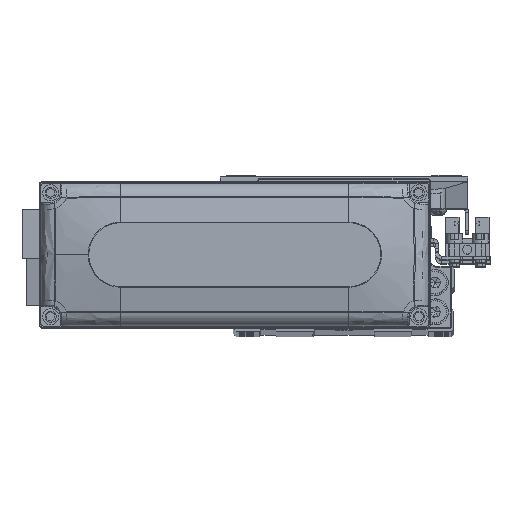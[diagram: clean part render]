
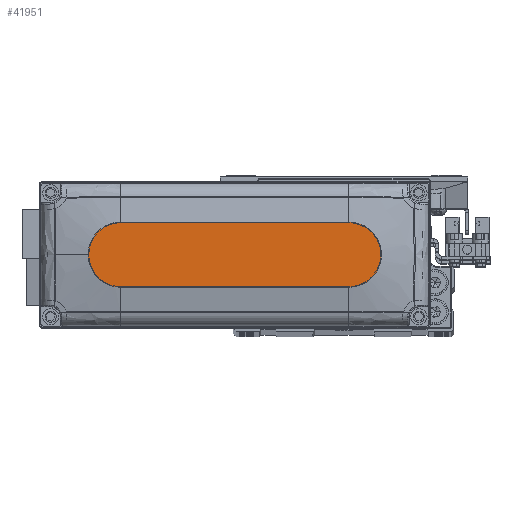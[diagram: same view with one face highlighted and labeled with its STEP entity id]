
A CAD part, top view. The second image highlights one B-rep face of the part: STEP entity #41951.
In plain terms, the highlighted planar face has unit normal (0, 0, 1).
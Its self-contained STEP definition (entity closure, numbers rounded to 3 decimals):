
#875 = CARTESIAN_POINT ( 'NONE',  ( 45., 0., 28. ) ) ;
#2263 = ORIENTED_EDGE ( 'NONE', *, *, #11037, .T. ) ;
#3210 = VERTEX_POINT ( 'NONE', #30338 ) ;
#5040 = LINE ( 'NONE', #19557, #14381 ) ;
#6296 = CIRCLE ( 'NONE', #12375, 10. ) ;
#7540 = EDGE_CURVE ( 'NONE', #34927, #35789, #6296, .T. ) ;
#7816 = EDGE_CURVE ( 'NONE', #3210, #41523, #39797, .T. ) ;
#10111 = DIRECTION ( 'NONE',  ( 1., 0., 0. ) ) ;
#10828 = CARTESIAN_POINT ( 'NONE',  ( 35., 0., 28. ) ) ;
#11037 = EDGE_CURVE ( 'NONE', #35789, #3210, #5040, .T. ) ;
#11823 = EDGE_CURVE ( 'NONE', #41523, #40615, #15804, .T. ) ;
#12375 = AXIS2_PLACEMENT_3D ( 'NONE', #28241, #42748, #10111 ) ;
#12650 = CARTESIAN_POINT ( 'NONE',  ( 0., 0., 28. ) ) ;
#14381 = VECTOR ( 'NONE', #34093, 1000. ) ;
#14615 = AXIS2_PLACEMENT_3D ( 'NONE', #10828, #25377, #39899 ) ;
#15161 = ORIENTED_EDGE ( 'NONE', *, *, #11823, .T. ) ;
#15804 = LINE ( 'NONE', #30356, #34087 ) ;
#19557 = CARTESIAN_POINT ( 'NONE',  ( -35., 10., 28. ) ) ;
#19811 = FACE_OUTER_BOUND ( 'NONE', #34566, .T. ) ;
#19864 = DIRECTION ( 'NONE',  ( 0., 0., 1. ) ) ;
#23176 = AXIS2_PLACEMENT_3D ( 'NONE', #12650, #27200, #41723 ) ;
#25377 = DIRECTION ( 'NONE',  ( 0., 0., 1. ) ) ;
#27200 = DIRECTION ( 'NONE',  ( 0., 0., 1. ) ) ;
#28241 = CARTESIAN_POINT ( 'NONE',  ( 35., 0., 28. ) ) ;
#30338 = CARTESIAN_POINT ( 'NONE',  ( -35., 10., 28. ) ) ;
#30356 = CARTESIAN_POINT ( 'NONE',  ( -35., -10., 28. ) ) ;
#31244 = CARTESIAN_POINT ( 'NONE',  ( 35., -10., 28. ) ) ;
#32823 = ORIENTED_EDGE ( 'NONE', *, *, #7540, .T. ) ;
#34087 = VECTOR ( 'NONE', #44853, 1000. ) ;
#34093 = DIRECTION ( 'NONE',  ( -1., 0., 0. ) ) ;
#34395 = DIRECTION ( 'NONE',  ( 1., 0., 0. ) ) ;
#34566 = EDGE_LOOP ( 'NONE', ( #2263, #36231, #15161, #36026, #32823 ) ) ;
#34927 = VERTEX_POINT ( 'NONE', #875 ) ;
#35168 = CIRCLE ( 'NONE', #14615, 10. ) ;
#35789 = VERTEX_POINT ( 'NONE', #44245 ) ;
#36026 = ORIENTED_EDGE ( 'NONE', *, *, #38183, .T. ) ;
#36231 = ORIENTED_EDGE ( 'NONE', *, *, #7816, .T. ) ;
#38183 = EDGE_CURVE ( 'NONE', #40615, #34927, #35168, .T. ) ;
#39797 = CIRCLE ( 'NONE', #45860, 10. ) ;
#39899 = DIRECTION ( 'NONE',  ( 1., 0., 0. ) ) ;
#40615 = VERTEX_POINT ( 'NONE', #31244 ) ;
#41523 = VERTEX_POINT ( 'NONE', #42461 ) ;
#41537 = CARTESIAN_POINT ( 'NONE',  ( -35., 0., 28. ) ) ;
#41723 = DIRECTION ( 'NONE',  ( 1., 0., 0. ) ) ;
#41951 = ADVANCED_FACE ( 'NONE', ( #19811 ), #45278, .T. ) ;
#42461 = CARTESIAN_POINT ( 'NONE',  ( -35., -10., 28. ) ) ;
#42748 = DIRECTION ( 'NONE',  ( 0., 0., 1. ) ) ;
#44245 = CARTESIAN_POINT ( 'NONE',  ( 35., 10., 28. ) ) ;
#44853 = DIRECTION ( 'NONE',  ( 1., 0., 0. ) ) ;
#45278 = PLANE ( 'NONE',  #23176 ) ;
#45860 = AXIS2_PLACEMENT_3D ( 'NONE', #41537, #19864, #34395 ) ;
